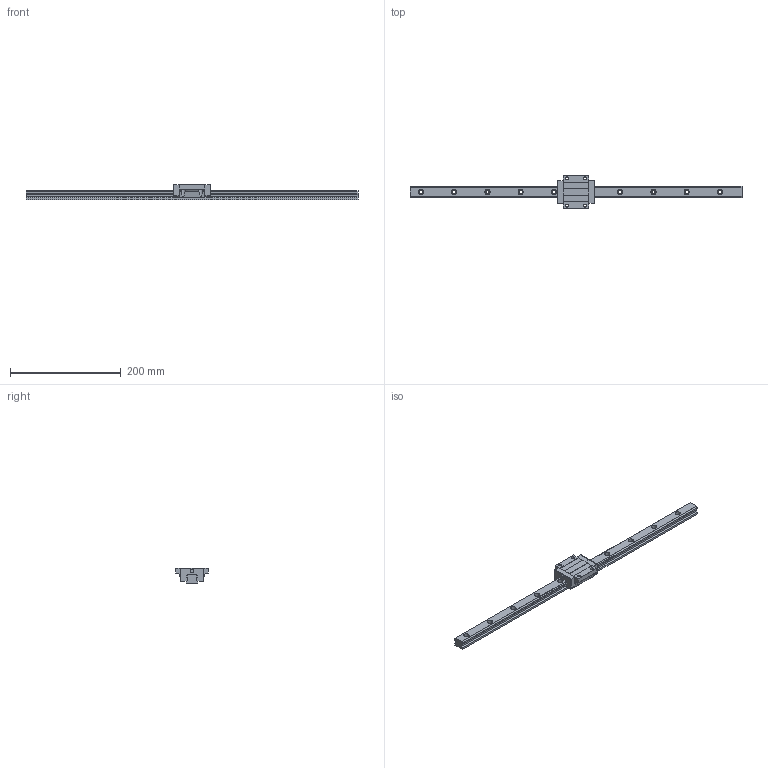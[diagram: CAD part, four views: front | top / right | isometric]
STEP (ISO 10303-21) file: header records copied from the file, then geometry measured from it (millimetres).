
FILE_DESCRIPTION (( 'STEP AP203' ), '1' );
FILE_NAME ('TRS20FN-XNC.STEP', '2024-08-16T07:07:04', ( '' ), ( '' ), 'SwSTEP 2.0', 'SolidWorks 2021', '' );
FILE_SCHEMA (( 'CONFIG_CONTROL_DESIGN' ));
Length unit declared in the file: millimetre
Products named in the file (1): TRS20FN-XNC
Bounding box: 600 x 59 x 28 mm (x, y, z)
Volume: 222937.9 mm3; surface area: 62102.7 mm2
Topology: 1 solids, 1 shells, 215 faces, 594 edges, 386 vertices
Faces by surface type: cylinder 116, plane 95, sphere 4
Entity records: 7203 total; most frequent: CARTESIAN_POINT 1468, DIRECTION 1204, ORIENTED_EDGE 1180, EDGE_CURVE 590, AXIS2_PLACEMENT_3D 426, VERTEX_POINT 386, VECTOR 352, LINE 352
